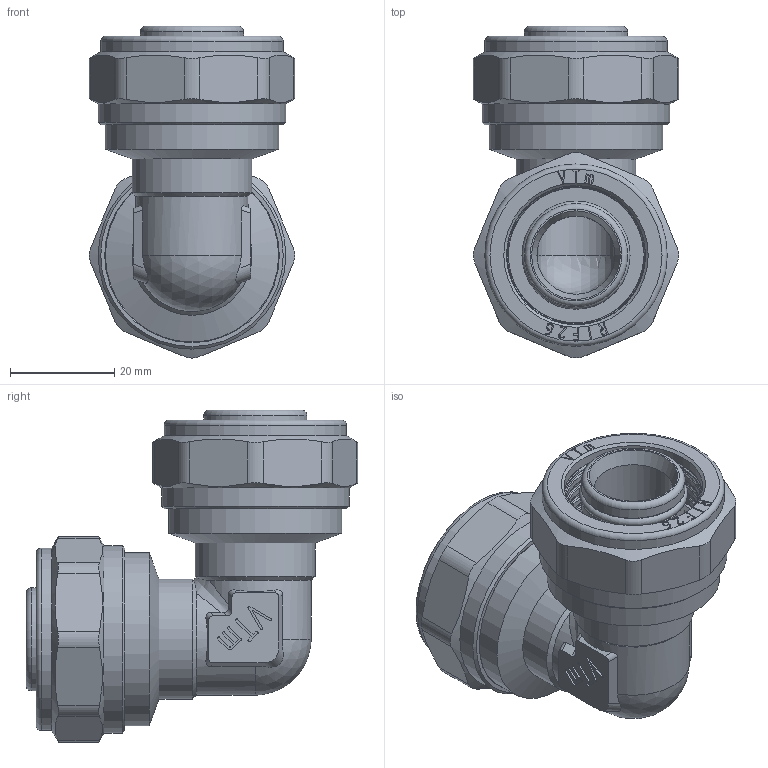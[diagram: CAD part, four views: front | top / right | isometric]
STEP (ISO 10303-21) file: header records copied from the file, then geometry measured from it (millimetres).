
FILE_DESCRIPTION(('STEP AP203'), '1');
FILE_NAME('VTm.351.N.002626', '', ('UNSPECIFIED'), ('UNSPECIFIED'), 'C3D Converter', 'C3D Toolkit', '');
FILE_SCHEMA(('CONFIG_CONTROL_DESIGN'));
Length unit declared in the file: millimetre
Products named in the file (1): ВР.302635.097.000 СБ
Bounding box: 39.39 x 63.69 x 63.69 mm (x, y, z)
Volume: 35863.4 mm3; surface area: 26203.5 mm2
Topology: 1 solids, 1 shells, 749 faces, 2057 edges, 1356 vertices
Faces by surface type: extrusion 324, plane 250, cylinder 86, torus 58, cone 28, sphere 2, bspline 1
Full cylindrical faces by diameter (mm): 15 x2, 17.4 x8, 19.8 x10, 20 x2, 23 x2, 26.2 x2, 26.7 x2, 30.292 x2, 33.249 x2, 35 x2, 36 x2
Entity records: 27557 total; most frequent: CARTESIAN_POINT 10448, ORIENTED_EDGE 3938, DIRECTION 2462, EDGE_CURVE 1969, VERTEX_POINT 1356, VECTOR 1214, B_SPLINE_CURVE_WITH_KNOTS 1146, LINE 890
